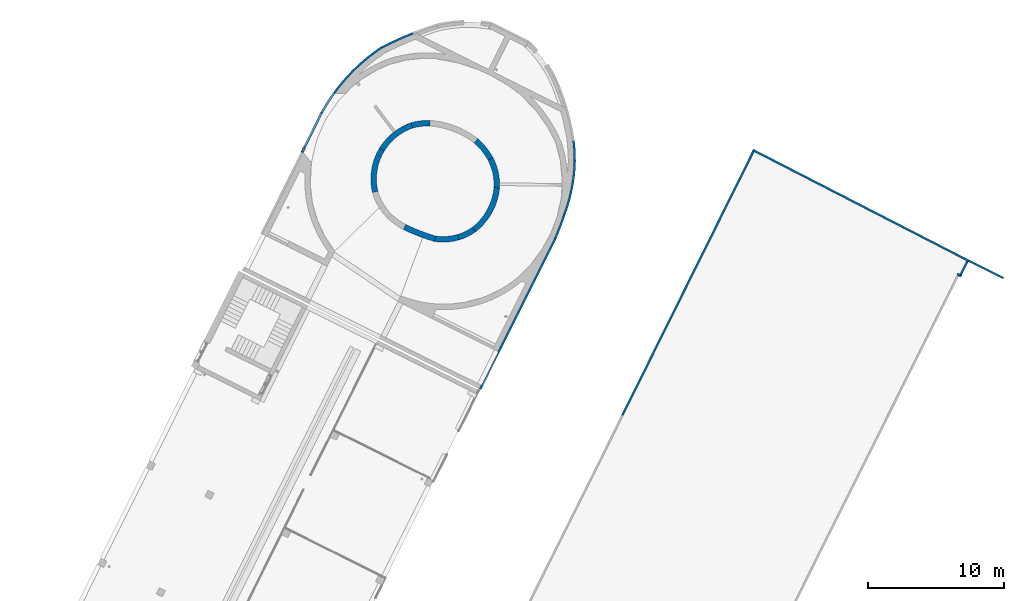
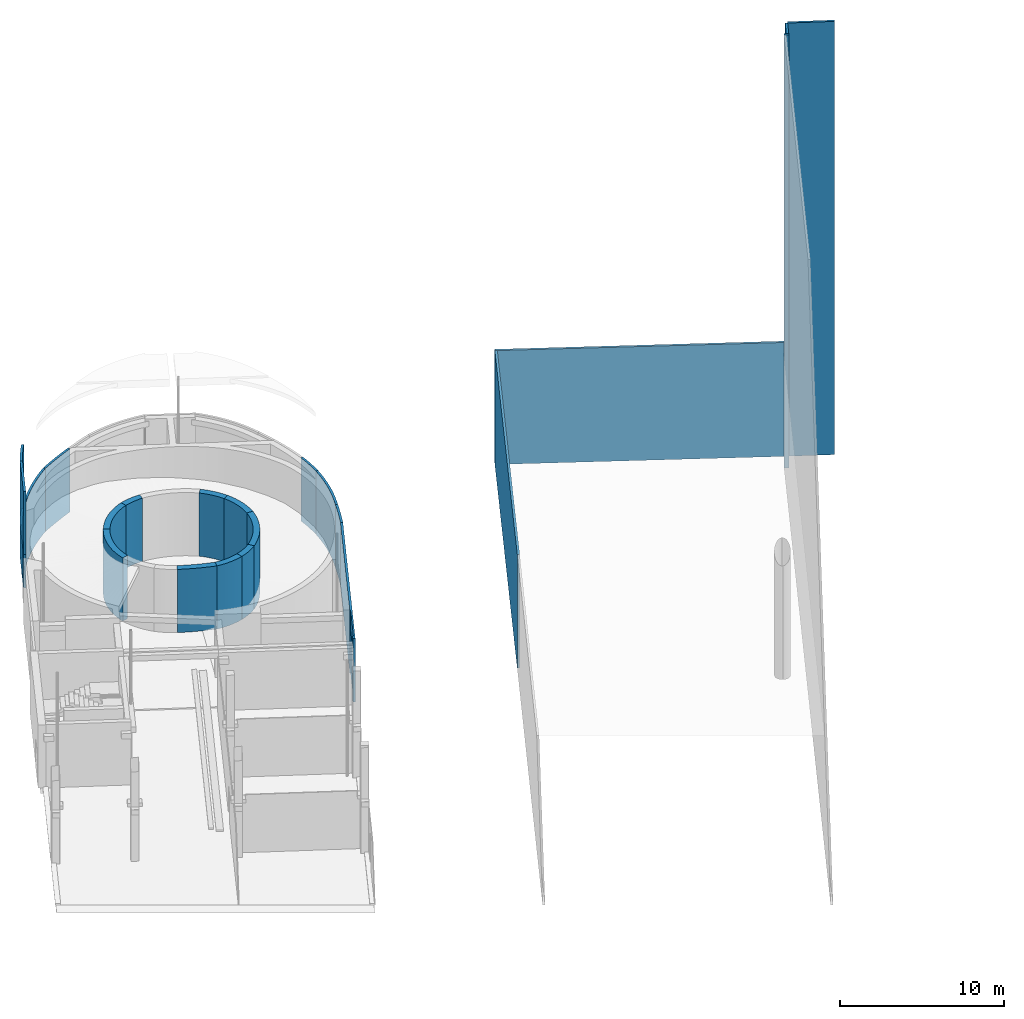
# One storey, part 19 of 91: 25 walls, 2 openings.
"""IFC2X3 building model written with IfcOpenShell, lengths in metres."""

from ifc_helpers import new_model, entity, si_unit, converted_unit, derived_unit, direction, frame, frame_2d, origin, place, context, subcontext, project, spatial, polyline, circle_curve, parameter, trimmed, segment, composite_curve, rectangle, outline, extrude, clip, bounded_halfspace, material, layer, layer_set, layer_usage, type_object, element, save


model = new_model("IFC2X3")

# Units and contexts
model_context = context("Model", 3, precision=1e-05, world=origin(), true_north=direction((0.894925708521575, 0.446215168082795)))
context_of_model = context(None, 3, precision=1e-05, world=origin(), true_north=direction((0.894925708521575, 0.446215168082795)))
body_context = subcontext(model_context, "Body", "Model", "MODEL_VIEW")
ifc_project = project(units=[si_unit("LENGTHUNIT", "METRE"), si_unit("AREAUNIT", "SQUARE_METRE"), si_unit("VOLUMEUNIT", "CUBIC_METRE"), converted_unit("PLANEANGLEUNIT", "DEGREE", entity("IfcRatioMeasure", 0.0174532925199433), si_unit("PLANEANGLEUNIT", "RADIAN"), dimensions=[0, 0, 0, 0, 0, 0, 0]), si_unit("MASSUNIT", "GRAM", prefix="KILO"), si_unit("TIMEUNIT", "SECOND"), si_unit("FREQUENCYUNIT", "HERTZ"), si_unit("THERMODYNAMICTEMPERATUREUNIT", "DEGREE_CELSIUS"), derived_unit("THERMALTRANSMITTANCEUNIT", [(si_unit("MASSUNIT", "GRAM", prefix="KILO"), 1), (si_unit("THERMODYNAMICTEMPERATUREUNIT", "KELVIN"), -1), (si_unit("TIMEUNIT", "SECOND"), -3)]), derived_unit("VOLUMETRICFLOWRATEUNIT", [(si_unit("LENGTHUNIT", "METRE"), 3), (si_unit("TIMEUNIT", "SECOND"), -1)]), si_unit("ELECTRICCURRENTUNIT", "AMPERE"), si_unit("ELECTRICVOLTAGEUNIT", "VOLT"), si_unit("POWERUNIT", "WATT"), si_unit("FORCEUNIT", "NEWTON", prefix="KILO"), si_unit("ILLUMINANCEUNIT", "LUX"), si_unit("LUMINOUSFLUXUNIT", "LUMEN"), si_unit("LUMINOUSINTENSITYUNIT", "CANDELA"), si_unit("PRESSUREUNIT", "PASCAL")], contexts=[model_context, context_of_model])

# Site, building, storey
site_placement = place(None, frame((218.228324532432, 584.720189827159, 0.0), z_axis=(0.0, 0.0, 1.0), x_axis=(0.446215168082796, 0.894925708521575, 0.0)))
site = spatial("IfcSite", under=ifc_project, at=site_placement, Name="Default", CompositionType="ELEMENT")
building_placement = place(site_placement, origin())
building = spatial("IfcBuilding", under=site, at=building_placement, CompositionType="ELEMENT")
storey_placement = place(building_placement, origin())
storey = spatial("IfcBuildingStorey", under=building, at=storey_placement, Name="0 - Piano Terra", CompositionType="ELEMENT", Elevation=0.0)

# Walls
ifc_material_1 = material(Name="Intonaco - Bianco")
ifc_layer_1 = layer(ifc_material_1, 0.01)
ifc_material_2 = material(Name="Default - Calcestruzzo")
ifc_layer_2 = layer(ifc_material_2, 0.4)
ifc_layer_set_1 = layer_set([ifc_layer_1, ifc_layer_2], Name="Muro di base:Setto CA intonacato int - 41 cm")
ifc_layer_usage_1 = layer_usage(ifc_layer_set_1, "AXIS2", "POSITIVE", -0.205)
wall_type_1 = type_object("IfcWallType", Name="Muro di base:Setto CA intonacato int - 41 cm", PredefinedType="STANDARD", material=ifc_layer_set_1)
wall_1_placement = place(storey_placement, frame((72.7535282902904, -7.76748426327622, 0.0), z_axis=(0.0, 0.0, 1.0), x_axis=(-0.432595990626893, -0.901587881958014, 0.0)))
element("IfcWallStandardCase", 1, at=wall_1_placement, inside=storey, type_object=wall_type_1, material=ifc_layer_usage_1, Name="Muro di base:Setto CA intonacato int - 41 cm", ObjectType="Muro di base:Setto CA intonacato int - 41 cm", context=body_context, shape_type="SweptSolid", body=[
    extrude(outline(composite_curve([segment(trimmed(circle_curve(frame_2d((-3.01054474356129, -3.21887026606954), x_axis=(1.0, 0.0)), 4.61232406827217), [parameter(359.999999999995)], [parameter(46.9153847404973)], True, "PARAMETER"), True, "CONTINUOUS"), segment(polyline([(0.140030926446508, 0.149720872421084), (-0.133743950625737, -0.15561304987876)]), True, "CONTINUOUS"), segment(trimmed(circle_curve(frame_2d((-3.01054474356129, -3.21887026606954), x_axis=(1.0, 0.0)), 4.20232406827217), [parameter(0.114022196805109)], [parameter(46.7979049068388)], True, "PARAMETER"), False, "CONTINUOUS"), segment(polyline([(1.19177100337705, -3.21050738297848), (1.60177932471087, -3.21887026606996)]), True, "CONTINUOUS")], self_intersect=False)), origin(), (0.0, 0.0, 1.0), 4.69),
])
ifc_layer_usage_2 = layer_usage(ifc_layer_set_1, "AXIS2", "POSITIVE", -0.205)
wall_2_placement = place(storey_placement, frame((74.4408967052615, -6.4093007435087, 0.0), z_axis=(0.0, 0.0, 1.0), x_axis=(0.401751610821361, -0.91574867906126, 0.0)))
element("IfcWallStandardCase", 2, at=wall_2_placement, inside=storey, type_object=wall_type_1, material=ifc_layer_usage_2, Name="Muro di base:Setto CA intonacato int - 41 cm", ObjectType="Muro di base:Setto CA intonacato int - 41 cm", context=body_context, shape_type="SweptSolid", body=[
    extrude(outline(composite_curve([segment(trimmed(circle_curve(frame_2d((-3.6131813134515, -2.09945934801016), x_axis=(1.0, 0.0)), 4.3838525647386), [parameter(4.07110999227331e-12)], [parameter(30.1589707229)], True, "PARAMETER"), True, "CONTINUOUS"), segment(polyline([(0.177250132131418, 0.102992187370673), (-0.17501766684, -0.106839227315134)]), True, "CONTINUOUS"), segment(trimmed(circle_curve(frame_2d((-3.6131813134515, -2.09945934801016), x_axis=(1.0, 0.0)), 3.9738525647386), [parameter(0.123917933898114)], [parameter(30.0948403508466)], True, "PARAMETER"), False, "CONTINUOUS"), segment(polyline([(0.360661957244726, -2.09086480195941), (0.770671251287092, -2.09945934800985)]), True, "CONTINUOUS")], self_intersect=False)), origin(), (0.0, 0.0, 1.0), 4.69),
])
ifc_layer_usage_3 = layer_usage(ifc_layer_set_1, "AXIS2", "POSITIVE", -0.205)
wall_3_placement = place(storey_placement, frame((75.1511296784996, -4.85328415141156, 0.0), z_axis=(0.0, 0.0, 1.0), x_axis=(0.791601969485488, -0.611037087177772, 0.0)))
element("IfcWallStandardCase", 3, at=wall_3_placement, inside=storey, type_object=wall_type_1, material=ifc_layer_usage_3, Name="Muro di base:Setto CA intonacato int - 41 cm", ObjectType="Muro di base:Setto CA intonacato int - 41 cm", context=body_context, shape_type="SweptSolid", body=[
    extrude(outline(composite_curve([segment(trimmed(circle_curve(frame_2d((-4.38089045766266, -1.89996316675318), x_axis=(1.0, 0.0)), 4.98015038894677), [parameter(2.75814113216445)], [parameter(23.4460581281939)], True, "PARAMETER"), True, "CONTINUOUS"), segment(polyline([(0.188074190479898, 0.0815665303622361), (-0.18352889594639, -0.0920830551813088)]), True, "CONTINUOUS"), segment(trimmed(circle_curve(frame_2d((-4.38089045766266, -1.89996316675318), x_axis=(1.0, 0.0)), 4.57015038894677), [parameter(2.81424736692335)], [parameter(23.3024253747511)], True, "PARAMETER"), False, "CONTINUOUS"), segment(polyline([(0.183748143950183, -1.67557730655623), (0.593490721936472, -1.66031806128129)]), True, "CONTINUOUS")], self_intersect=False)), origin(), (0.0, 0.0, 1.0), 4.69),
])
ifc_layer_usage_4 = layer_usage(ifc_layer_set_1, "AXIS2", "POSITIVE", -0.205)
wall_4_placement = place(storey_placement, frame((74.0607317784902, -0.146360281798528, 0.0), z_axis=(0.0, 0.0, 1.0), x_axis=(0.907919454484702, 0.419144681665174, 0.0)))
element("IfcWallStandardCase", 4, at=wall_4_placement, inside=storey, type_object=wall_type_1, material=ifc_layer_usage_4, Name="Muro di base:Setto CA intonacato int - 41 cm", ObjectType="Muro di base:Setto CA intonacato int - 41 cm", context=body_context, shape_type="SweptSolid", body=[
    extrude(outline(composite_curve([segment(trimmed(circle_curve(frame_2d((-4.22179150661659, -1.33406781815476), x_axis=(1.0, 0.0)), 4.63255694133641), [parameter(7.46030906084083e-11)], [parameter(17.5363103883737)], True, "PARAMETER"), True, "CONTINUOUS"), segment(polyline([(0.195472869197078, 0.0617685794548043), (-0.192000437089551, -0.0728100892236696)]), True, "CONTINUOUS"), segment(trimmed(circle_curve(frame_2d((-4.22179150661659, -1.33406781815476), x_axis=(1.0, 0.0)), 4.22255694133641), [parameter(0.135564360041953)], [parameter(17.3792540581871)], True, "PARAMETER"), False, "CONTINUOUS"), segment(polyline([(0.000753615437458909, -1.3240770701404), (0.410765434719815, -1.33406781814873)]), True, "CONTINUOUS")], self_intersect=False)), origin(), (0.0, 0.0, 1.0), 4.69),
])
ifc_layer_usage_5 = layer_usage(ifc_layer_set_1, "AXIS2", "POSITIVE", -0.205)
wall_5_placement = place(storey_placement, frame((71.4703263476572, 1.0328184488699, 0.0), z_axis=(0.0, 0.0, 1.0), x_axis=(0.700325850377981, 0.713823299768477, 0.0)))
element("IfcWallStandardCase", 5, at=wall_5_placement, inside=storey, type_object=wall_type_1, material=ifc_layer_usage_5, Name="Muro di base:Setto CA intonacato int - 41 cm", ObjectType="Muro di base:Setto CA intonacato int - 41 cm", context=body_context, shape_type="SweptSolid", body=[
    extrude(outline(composite_curve([segment(trimmed(circle_curve(frame_2d((-3.22612707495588, -2.68645145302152), x_axis=(1.0, 0.0)), 4.40320405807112), [parameter(359.999999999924)], [parameter(39.784730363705)], True, "PARAMETER"), True, "CONTINUOUS"), segment(polyline([(0.157533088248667, 0.131180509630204), (-0.156956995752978, -0.131872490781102)]), True, "CONTINUOUS"), segment(trimmed(circle_curve(frame_2d((-3.22612707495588, -2.68645145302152), x_axis=(1.0, 0.0)), 3.99320405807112), [parameter(0.165656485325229)], [parameter(39.7718111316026)], True, "PARAMETER"), False, "CONTINUOUS"), segment(polyline([(0.767060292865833, -2.67490611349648), (1.17707698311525, -2.68645145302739)]), True, "CONTINUOUS")], self_intersect=False)), origin(), (0.0, 0.0, 1.0), 4.69),
])
ifc_layer_usage_6 = layer_usage(ifc_layer_set_1, "AXIS2", "POSITIVE", -0.205)
wall_6_placement = place(storey_placement, frame((67.3758956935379, -5.39443917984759, 0.0), z_axis=(0.0, 0.0, 1.0), x_axis=(-0.999926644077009, -0.0121122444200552, 0.0)))
element("IfcWallStandardCase", 6, at=wall_6_placement, inside=storey, type_object=wall_type_1, material=ifc_layer_usage_6, Name="Muro di base:Setto CA intonacato int - 41 cm", ObjectType="Muro di base:Setto CA intonacato int - 41 cm", context=body_context, shape_type="SweptSolid", body=[
    extrude(outline(composite_curve([segment(trimmed(circle_curve(frame_2d((-14.5573128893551, -2.40385476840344), x_axis=(1.0, 0.0)), 14.9594527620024), [parameter(7.63333123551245e-13)], [parameter(9.37665779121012)], True, "PARAMETER"), True, "CONTINUOUS"), segment(polyline([(0.202260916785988, 0.0333994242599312), (-0.197289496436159, -0.0637043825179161)]), True, "CONTINUOUS"), segment(trimmed(circle_curve(frame_2d((-14.5573128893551, -2.40385476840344), x_axis=(1.0, 0.0)), 14.5494527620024), [parameter(0.0299347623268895)], [parameter(9.2557216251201)], True, "PARAMETER"), False, "CONTINUOUS"), segment(polyline([(-0.0078621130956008, -2.39625325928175), (0.402139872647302, -2.40385476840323)]), True, "CONTINUOUS")], self_intersect=False)), origin(), (0.0, 0.0, 1.0), 4.69),
])
ifc_layer_usage_7 = layer_usage(ifc_layer_set_1, "AXIS2", "POSITIVE", -0.205)
wall_7_placement = place(storey_placement, frame((68.2405251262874, -6.86210125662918, 0.0), z_axis=(0.0, 0.0, 1.0), x_axis=(-0.948364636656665, -0.31718214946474, 0.0)))
element("IfcWallStandardCase", 7, at=wall_7_placement, inside=storey, type_object=wall_type_1, material=ifc_layer_usage_7, Name="Muro di base:Setto CA intonacato int - 41 cm", ObjectType="Muro di base:Setto CA intonacato int - 41 cm", context=body_context, shape_type="SweptSolid", body=[
    extrude(outline(composite_curve([segment(trimmed(circle_curve(frame_2d((-3.90742253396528, -1.69614852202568), x_axis=(1.0, 0.0)), 4.4646796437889), [parameter(2.3103549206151e-11)], [parameter(23.4648800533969)], True, "PARAMETER"), True, "CONTINUOUS"), segment(polyline([(0.188047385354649, 0.0816283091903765), (-0.186482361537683, -0.0852384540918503)]), True, "CONTINUOUS"), segment(trimmed(circle_curve(frame_2d((-3.90742253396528, -1.69614852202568), x_axis=(1.0, 0.0)), 4.0546796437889), [parameter(0.419338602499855)], [parameter(23.4092786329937)], True, "PARAMETER"), False, "CONTINUOUS"), segment(polyline([(0.147148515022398, -1.66647323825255), (0.557257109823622, -1.69614852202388)]), True, "CONTINUOUS")], self_intersect=False)), origin(), (0.0, 0.0, 1.0), 4.69),
])
ifc_layer_usage_8 = layer_usage(ifc_layer_set_1, "AXIS2", "POSITIVE", -0.205)
wall_8_placement = place(storey_placement, frame((69.2546324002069, -7.63809080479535, 0.0), z_axis=(0.0, 0.0, 1.0), x_axis=(-0.730703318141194, -0.682695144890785, 0.0)))
element("IfcWallStandardCase", 8, at=wall_8_placement, inside=storey, type_object=wall_type_1, material=ifc_layer_usage_8, Name="Muro di base:Setto CA intonacato int - 41 cm", ObjectType="Muro di base:Setto CA intonacato int - 41 cm", context=body_context, shape_type="SweptSolid", body=[
    extrude(outline(composite_curve([segment(trimmed(circle_curve(frame_2d((-3.67227557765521, -1.26326947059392), x_axis=(1.0, 0.0)), 4.08848524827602), [parameter(359.999999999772)], [parameter(18.9833101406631)], True, "PARAMETER"), True, "CONTINUOUS"), segment(polyline([(0.193850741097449, 0.0666850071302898), (-0.191156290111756, -0.0745465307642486)]), True, "CONTINUOUS"), segment(trimmed(circle_curve(frame_2d((-3.67227557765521, -1.26326947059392), x_axis=(1.0, 0.0)), 3.67848524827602), [parameter(0.0610019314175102)], [parameter(18.8538671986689)], True, "PARAMETER"), False, "CONTINUOUS"), segment(polyline([(0.00620758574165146, -1.2593530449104), (0.416209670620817, -1.2632694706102)]), True, "CONTINUOUS")], self_intersect=False)), origin(), (0.0, 0.0, 1.0), 4.69),
])
ifc_layer_usage_9 = layer_usage(ifc_layer_set_1, "AXIS2", "POSITIVE", -0.205)
wall_9_placement = place(storey_placement, frame((68.4842258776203, 0.0781020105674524, 0.0)))
element("IfcWallStandardCase", 9, at=wall_9_placement, inside=storey, type_object=wall_type_1, material=ifc_layer_usage_9, Name="Muro di base:Setto CA intonacato int - 41 cm", ObjectType="Muro di base:Setto CA intonacato int - 41 cm", context=body_context, shape_type="SweptSolid", body=[
    extrude(outline(composite_curve([segment(polyline([(-0.131399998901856, 0.157350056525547), (0.139254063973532, -0.150808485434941)]), True, "CONTINUOUS"), segment(trimmed(circle_curve(frame_2d((2.66661045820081, -3.19323675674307), x_axis=(1.0, 0.0)), 3.95523705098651), [parameter(85.5962125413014)], [parameter(129.716537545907)], True, "PARAMETER"), False, "CONTINUOUS"), segment(polyline([(2.97031308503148, 0.750323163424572), (3.00278525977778, 1.15903632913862)]), True, "CONTINUOUS"), segment(trimmed(circle_curve(frame_2d((2.66661045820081, -3.19323675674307), x_axis=(1.0, 0.0)), 4.36523705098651), [parameter(85.5831751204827)], [parameter(129.864606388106)], True, "PARAMETER"), True, "CONTINUOUS")], self_intersect=False)), origin(), (0.0, 0.0, 1.0), 4.69),
])
ifc_material_3 = material(Name="Alluminio")
ifc_layer_3 = layer(ifc_material_3, 0.15)
ifc_layer_set_2 = layer_set([ifc_layer_3], Name="Muro di base:Rivestimento 15 cm")
ifc_layer_usage_10 = layer_usage(ifc_layer_set_2, "AXIS2", "POSITIVE", -0.075)
wall_type_2 = type_object("IfcWallType", Name="Muro di base:Rivestimento 15 cm", PredefinedType="STANDARD", material=ifc_layer_set_2)
wall_10_placement = place(storey_placement, frame((78.1588103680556, 4.4167493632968, 0.0)))
element("IfcWallStandardCase", 10, at=wall_10_placement, inside=storey, type_object=wall_type_2, material=ifc_layer_usage_10, Name="Muro di base:Rivestimento 15 cm", ObjectType="Muro di base:Rivestimento 15 cm", context=body_context, shape_type="SweptSolid", body=[
    extrude(outline(composite_curve([segment(trimmed(circle_curve(frame_2d((-16.3663447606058, -22.1933416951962), x_axis=(1.0, 0.0)), 27.6503813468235), [parameter(48.2279813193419)], [parameter(53.5933068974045)], True, "PARAMETER"), True, "CONTINUOUS"), segment(polyline([(0.0445134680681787, 0.0603618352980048), (-0.037406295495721, -0.0656047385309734)]), True, "CONTINUOUS"), segment(trimmed(circle_curve(frame_2d((-16.3663447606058, -22.1933416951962), x_axis=(1.0, 0.0)), 27.5003813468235), [parameter(48.2279813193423)], [parameter(53.5749063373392)], True, "PARAMETER"), False, "CONTINUOUS"), segment(polyline([(1.95353823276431, -1.68351816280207), (2.0534634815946, -1.57164794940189)]), True, "CONTINUOUS")], self_intersect=False)), origin(), (0.0, 0.0, 1.0), 4.69),
])
ifc_layer_usage_11 = layer_usage(ifc_layer_set_2, "AXIS2", "POSITIVE", -0.075)
wall_11_placement = place(storey_placement, frame((78.3492203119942, -11.2758851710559, 0.0)))
element("IfcWallStandardCase", 11, at=wall_11_placement, inside=storey, type_object=wall_type_2, material=ifc_layer_usage_11, Name="Muro di base:Rivestimento 15 cm", ObjectType="Muro di base:Rivestimento 15 cm", context=body_context, shape_type="SweptSolid", body=[
    extrude(outline(composite_curve([segment(trimmed(circle_curve(frame_2d((-6.78022468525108, 10.3228070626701), x_axis=(1.0, 0.0)), 12.4253762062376), [parameter(295.405253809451)], [parameter(303.297703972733)], True, "PARAMETER"), True, "CONTINUOUS"), segment(polyline([(0.0411741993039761, -0.0626872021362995), (-0.0427763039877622, 0.0616350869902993)]), True, "CONTINUOUS"), segment(trimmed(circle_curve(frame_2d((-6.78022468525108, 10.3228070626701), x_axis=(1.0, 0.0)), 12.2753762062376), [parameter(295.414527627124)], [parameter(303.288757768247)], True, "PARAMETER"), False, "CONTINUOUS"), segment(polyline([(-1.51207310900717, -0.764638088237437), (-1.44951508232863, -0.900985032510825)]), True, "CONTINUOUS")], self_intersect=False)), origin(), (0.0, 0.0, 1.0), 4.69),
])
ifc_layer_usage_12 = layer_usage(ifc_layer_set_2, "AXIS2", "POSITIVE", -0.075)
wall_12_placement = place(storey_placement, frame((76.8693345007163, -12.1082945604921, 0.0)))
element("IfcWallStandardCase", 12, at=wall_12_placement, inside=storey, type_object=wall_type_2, material=ifc_layer_usage_12, Name="Muro di base:Rivestimento 15 cm", ObjectType="Muro di base:Rivestimento 15 cm", context=body_context, shape_type="SweptSolid", body=[
    extrude(outline(composite_curve([segment(trimmed(circle_curve(frame_2d((-4.92036196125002, 11.1099403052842), x_axis=(1.0, 0.0)), 12.2257504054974), [parameter(276.02698137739)], [parameter(293.887558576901)], True, "PARAMETER"), True, "CONTINUOUS"), segment(polyline([(0.0303707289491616, -0.0685756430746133), (-0.032187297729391, 0.0677713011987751)]), True, "CONTINUOUS"), segment(trimmed(circle_curve(frame_2d((-4.92036196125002, 11.1099403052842), x_axis=(1.0, 0.0)), 12.0757504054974), [parameter(276.0137038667)], [parameter(293.878132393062)], True, "PARAMETER"), False, "CONTINUOUS"), segment(polyline([(-3.6552299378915, -0.899355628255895), (-3.63669746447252, -1.04823301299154)]), True, "CONTINUOUS")], self_intersect=False)), origin(), (0.0, 0.0, 1.0), 4.69),
])
ifc_layer_usage_13 = layer_usage(ifc_layer_set_2, "AXIS2", "POSITIVE", -0.075)
wall_13_placement = place(storey_placement, frame((73.2247688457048, -13.0818881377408, 0.0)))
element("IfcWallStandardCase", 13, at=wall_13_placement, inside=storey, type_object=wall_type_2, material=ifc_layer_usage_13, Name="Muro di base:Rivestimento 15 cm", ObjectType="Muro di base:Rivestimento 15 cm", context=body_context, shape_type="SweptSolid", body=[
    extrude(outline(composite_curve([segment(trimmed(circle_curve(frame_2d((-3.32195223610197, 23.1253168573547), x_axis=(1.0, 0.0)), 23.4376977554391), [parameter(273.478873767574)], [parameter(278.167711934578)], True, "PARAMETER"), True, "CONTINUOUS"), segment(polyline([(0.00786819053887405, -0.0746394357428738), (-0.0106642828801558, 0.074237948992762)]), True, "CONTINUOUS"), segment(trimmed(circle_curve(frame_2d((-3.32195223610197, 23.1253168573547), x_axis=(1.0, 0.0)), 23.2876977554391), [parameter(273.490063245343)], [parameter(278.17461736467)], True, "PARAMETER"), False, "CONTINUOUS"), segment(polyline([(-1.90430355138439, -0.119190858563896), (-1.89974099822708, -0.269190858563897)]), True, "CONTINUOUS")], self_intersect=False)), origin(), (0.0, 0.0, 1.0), 4.69),
])

# Wall, openings
ifc_layer_usage_14 = layer_usage(ifc_layer_set_2, "AXIS2", "NEGATIVE", 0.075)
wall_14_placement = place(storey_placement, frame((71.3250278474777, -13.2760789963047, 0.0), z_axis=(0.0, 0.0, 1.0), x_axis=(-1.0, 0.0, 0.0)))
wall_14 = element("IfcWallStandardCase", 14, at=wall_14_placement, inside=storey, type_object=wall_type_2, material=ifc_layer_usage_14, Name="Muro di base:Rivestimento 15 cm", ObjectType="Muro di base:Rivestimento 15 cm", context=body_context, shape_type="Clipping", body=[
    clip(extrude(outline(polyline([(0.0, 0.0750000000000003), (0.00456255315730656, -0.0750000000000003), (9.28909086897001, -0.0750000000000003), (9.29909086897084, -0.0750000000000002), (9.29909086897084, -0.0250000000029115), (12.0490908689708, -0.0250000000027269), (12.0490908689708, -0.0749999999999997), (12.0590908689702, -0.0749999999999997), (12.3590908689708, -0.0750000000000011), (12.3590908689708, 0.0749999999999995), (0.0, 0.0750000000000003)])), origin(), (0.0, 0.0, 1.0), 4.69), bounded_halfspace(frame((12.0490908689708, -0.0250000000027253, 0.0), z_axis=(0.0, 1.0, 0.0), x_axis=(0.0, 0.0, 1.0)), True, frame((12.0490908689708, -0.0250000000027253, 0.0), z_axis=(0.0, 1.0, 0.0), x_axis=(0.0, 0.0, 1.0)), polyline([(0.0, 0.0), (0.0, -2.75), (0.005, -2.75000000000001), (0.005, 0.0), (0.0, 0.0)]))),
])
opening_1_placement = place(wall_14_placement, frame((12.0490908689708, 0.0750000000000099, 0.005)))
element("IfcOpeningElement", 15, at=opening_1_placement, cuts=wall_14, Name="Muro di base:Rivestimento 15 cm", ObjectType="Opening", context=body_context, shape_type="SweptSolid", body=[
    extrude(rectangle(XDim=0.0849999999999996, YDim=2.75000000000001, at=frame_2d((0.0, 4.32986979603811e-15), x_axis=(1.0, 0.0))), frame((-1.37500000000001, -0.150000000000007, 0.0424999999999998), z_axis=(0.0, 1.0, 0.0), x_axis=(0.0, 0.0, -1.0)), (0.0, 0.0, 1.0), 0.150000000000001),
])
opening_2_placement = place(wall_14_placement, frame((12.0490908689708, 1.44900000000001, 0.0900000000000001)))
element("IfcOpeningElement", 16, at=opening_2_placement, cuts=wall_14, Name="Muro di base:Rivestimento 15 cm", ObjectType="Opening", context=body_context, shape_type="SweptSolid", body=[
    extrude(rectangle(XDim=3.13, YDim=2.75, at=frame_2d((0.0, 0.0), x_axis=(0.0, 1.0))), frame((-1.37500000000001, -3.04800000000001, 1.565), z_axis=(0.0, 1.0, 0.0), x_axis=(1.0, 0.0, 0.0)), (0.0, 0.0, 1.0), 3.048),
])

# Walls
ifc_layer_usage_15 = layer_usage(ifc_layer_set_2, "AXIS2", "POSITIVE", -0.075)
wall_15_placement = place(storey_placement, frame((71.9312887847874, 6.20020690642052, 2.47), z_axis=(0.0, 0.0, 1.0), x_axis=(-0.999998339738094, -0.00182222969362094, 0.0)))
element("IfcWallStandardCase", 17, at=wall_15_placement, inside=storey, type_object=wall_type_2, material=ifc_layer_usage_15, Name="Muro di base:Rivestimento 15 cm", ObjectType="Muro di base:Rivestimento 15 cm", context=body_context, shape_type="SweptSolid", body=[
    extrude(outline(polyline([(2.80317753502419, -0.0750000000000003), (2.80317753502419, 0.0749999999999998), (0.00317753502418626, 0.0749999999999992), (0.0, -0.0750000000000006), (2.80317753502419, -0.0750000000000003)])), origin(), (0.0, 0.0, 1.0), 2.5),
])
ifc_layer_usage_16 = layer_usage(ifc_layer_set_2, "AXIS2", "POSITIVE", -0.075)
wall_16_placement = place(storey_placement, frame((73.6854885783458, 6.01529600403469, 2.47)))
element("IfcWallStandardCase", 18, at=wall_16_placement, inside=storey, type_object=wall_type_2, material=ifc_layer_usage_16, Name="Muro di base:Rivestimento 15 cm", ObjectType="Muro di base:Rivestimento 15 cm", context=body_context, shape_type="SweptSolid", body=[
    extrude(outline(composite_curve([segment(trimmed(circle_curve(frame_2d((-2.31178993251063, -13.523053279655), x_axis=(1.0, 0.0)), 13.6442325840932), [parameter(80.2989621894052)], [parameter(87.6706577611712)], True, "PARAMETER"), False, "CONTINUOUS"), segment(polyline([(-0.0126380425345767, -0.0739275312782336), (0.01263804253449, 0.0739275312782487)]), True, "CONTINUOUS"), segment(trimmed(circle_curve(frame_2d((-2.31178993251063, -13.523053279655), x_axis=(1.0, 0.0)), 13.7942325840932), [parameter(80.2989621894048)], [parameter(87.6839283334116)], True, "PARAMETER"), True, "CONTINUOUS"), segment(polyline([(-1.75433646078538, 0.259910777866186), (-1.75724065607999, 0.109905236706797)]), True, "CONTINUOUS")], self_intersect=False)), origin(), (0.0, 0.0, 1.0), 2.43294385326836),
])
ifc_layer_usage_17 = layer_usage(ifc_layer_set_2, "AXIS2", "POSITIVE", -0.075)
wall_17_placement = place(storey_placement, frame((78.16619078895, 4.4119488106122, 0.0)))
element("IfcWallStandardCase", 19, at=wall_17_placement, inside=storey, type_object=wall_type_2, material=ifc_layer_usage_17, Name="Muro di base:Rivestimento 15 cm", ObjectType="Muro di base:Rivestimento 15 cm", context=body_context, shape_type="SweptSolid", body=[
    extrude(outline(composite_curve([segment(trimmed(circle_curve(frame_2d((-6.79249214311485, -11.9197060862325), x_axis=(1.0, 0.0)), 13.6442325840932), [parameter(60.3601593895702)], [parameter(80.2989621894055)], True, "PARAMETER"), False, "CONTINUOUS"), segment(polyline([(-0.0447867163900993, -0.0608041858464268), (0.0371330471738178, 0.0651623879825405)]), True, "CONTINUOUS"), segment(trimmed(circle_curve(frame_2d((-6.79249214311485, -11.9197060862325), x_axis=(1.0, 0.0)), 13.7942325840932), [parameter(60.3231742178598)], [parameter(80.2989621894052)], True, "PARAMETER"), True, "CONTINUOUS"), segment(polyline([(-4.46806416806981, 1.67727472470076), (-4.49334025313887, 1.52941966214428)]), True, "CONTINUOUS")], self_intersect=False)), origin(), (0.0, 0.0, 1.0), 4.69),
])
ifc_layer_usage_18 = layer_usage(ifc_layer_set_2, "AXIS2", "NEGATIVE", 0.075)
wall_18_placement = place(storey_placement, frame((61.9184683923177, -23.4717946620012, 0.0), z_axis=(0.0, 0.0, 1.0), x_axis=(0.99999828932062, 0.00184969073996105, 0.0)))
element("IfcWallStandardCase", 20, at=wall_18_placement, inside=storey, type_object=wall_type_2, material=ifc_layer_usage_18, Name="Muro di base:Rivestimento 15 cm", ObjectType="Muro di base:Rivestimento 15 cm", context=body_context, shape_type="SweptSolid", body=[
    extrude(outline(polyline([(21.6310712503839, -0.0749999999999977), (21.6331357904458, 0.0749999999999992), (0.0, 0.0750000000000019), (0.0, -0.0749999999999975), (21.6310712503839, -0.0749999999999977)])), origin(), (0.0, 0.0, 1.0), 8.45),
])
ifc_layer_usage_19 = layer_usage(ifc_layer_set_2, "AXIS2", "NEGATIVE", 0.075)
wall_19_placement = place(storey_placement, frame((83.6264477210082, -23.3556092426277, 0.0), z_axis=(0.0, 0.0, 1.0), x_axis=(-0.0119127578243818, -0.999929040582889, 0.0)))
element("IfcWallStandardCase", 21, at=wall_19_placement, inside=storey, type_object=wall_type_2, material=ifc_layer_usage_19, Name="Muro di base:Rivestimento 15 cm", ObjectType="Muro di base:Rivestimento 15 cm", context=body_context, shape_type="SweptSolid", body=[
    extrude(outline(polyline([(17.822790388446, -0.075), (17.8227686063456, -0.0731870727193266), (17.8209881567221, 0.074999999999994), (0.0, 0.0749999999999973), (0.00206454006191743, -0.0750000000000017), (0.152078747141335, -0.0749999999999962), (17.6727795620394, -0.0749999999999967), (17.822790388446, -0.075)])), origin(), (0.0, 0.0, 1.0), 8.45),
])
ifc_layer_usage_20 = layer_usage(ifc_layer_set_2, "AXIS2", "POSITIVE", -0.075)
wall_20_placement = place(storey_placement, frame((73.6854885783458, 6.01529600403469, 4.90294385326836)))
element("IfcWallStandardCase", 22, at=wall_20_placement, inside=storey, type_object=wall_type_2, material=ifc_layer_usage_20, Name="Muro di base:Rivestimento 15 cm", ObjectType="Muro di base:Rivestimento 15 cm", context=body_context, shape_type="SweptSolid", body=[
    extrude(outline(composite_curve([segment(trimmed(circle_curve(frame_2d((-2.31178993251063, -13.523053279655), x_axis=(1.0, 0.0)), 13.6442325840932), [parameter(80.2989621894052)], [parameter(87.6706577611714)], True, "PARAMETER"), False, "CONTINUOUS"), segment(polyline([(-0.0126380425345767, -0.0739275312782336), (0.01263804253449, 0.0739275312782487)]), True, "CONTINUOUS"), segment(trimmed(circle_curve(frame_2d((-2.31178993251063, -13.523053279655), x_axis=(1.0, 0.0)), 13.7942325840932), [parameter(80.2989621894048)], [parameter(87.6839283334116)], True, "PARAMETER"), True, "CONTINUOUS"), segment(polyline([(-1.75433646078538, 0.259910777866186), (-1.75724065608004, 0.109905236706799)]), True, "CONTINUOUS")], self_intersect=False)), origin(), (0.0, 0.0, 1.0), 4.73705614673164),
])
ifc_layer_usage_21 = layer_usage(ifc_layer_set_2, "AXIS2", "POSITIVE", -0.075)
wall_21_placement = place(storey_placement, frame((71.9312887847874, 6.20020690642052, 4.97), z_axis=(0.0, 0.0, 1.0), x_axis=(-0.999998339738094, -0.00182222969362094, 0.0)))
element("IfcWallStandardCase", 23, at=wall_21_placement, inside=storey, type_object=wall_type_2, material=ifc_layer_usage_21, Name="Muro di base:Rivestimento 15 cm", ObjectType="Muro di base:Rivestimento 15 cm", context=body_context, shape_type="SweptSolid", body=[
    extrude(outline(polyline([(3.21718381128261, -0.0750000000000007), (3.2171838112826, 0.0749999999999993), (2.80317753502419, 0.0749999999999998), (0.00317753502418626, 0.0749999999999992), (0.0, -0.0750000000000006), (2.80317753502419, -0.0750000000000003), (3.21718381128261, -0.0750000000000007)])), origin(), (0.0, 0.0, 1.0), 4.67),
])
ifc_layer_usage_22 = layer_usage(ifc_layer_set_2, "AXIS2", "POSITIVE", -0.075)
wall_22_placement = place(storey_placement, frame((69.1281159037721, 6.19509887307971, 2.47), z_axis=(0.0, 0.0, 1.0), x_axis=(-0.999998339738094, -0.00182222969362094, 0.0)))
element("IfcWallStandardCase", 24, at=wall_22_placement, inside=storey, type_object=wall_type_2, material=ifc_layer_usage_22, Name="Muro di base:Rivestimento 15 cm", ObjectType="Muro di base:Rivestimento 15 cm", context=body_context, shape_type="SweptSolid", body=[
    extrude(rectangle(XDim=0.414006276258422, YDim=0.149999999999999, at=frame_2d((0.207003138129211, -2.42861286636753e-16), x_axis=(-1.0, 0.0))), origin(), (0.0, 0.0, 1.0), 2.5),
])
ifc_material_4 = material(Name="Default - Finestre")
ifc_layer_4 = layer(ifc_material_4, 0.15)
ifc_layer_set_3 = layer_set([ifc_layer_4], Name="Muro di base:Rivestimento pannelli 5 cm")
ifc_layer_usage_23 = layer_usage(ifc_layer_set_3, "AXIS2", "NEGATIVE", 0.075)
wall_type_3 = type_object("IfcWallType", Name="Muro di base:Rivestimento pannelli 5 cm", PredefinedType="STANDARD", material=ifc_layer_set_3)
wall_23_placement = place(storey_placement, frame((82.1637900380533, -40.8766711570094, 0.0), z_axis=(0.0, 0.0, 1.0), x_axis=(0.000101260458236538, -0.99999999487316, 0.0)))
element("IfcWallStandardCase", 25, at=wall_23_placement, inside=storey, type_object=wall_type_3, material=ifc_layer_usage_23, Name="Muro di base:Rivestimento pannelli 5 cm", ObjectType="Muro di base:Rivestimento pannelli 5 cm", context=body_context, shape_type="SweptSolid", body=[
    extrude(rectangle(XDim=0.299689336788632, YDim=0.15, at=frame_2d((0.149844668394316, 1.31838984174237e-15), x_axis=(-1.0, 0.0))), origin(), (0.0, 0.0, 1.0), 32.15),
])
ifc_layer_usage_24 = layer_usage(ifc_layer_set_3, "AXIS2", "NEGATIVE", 0.075)
wall_24_placement = place(storey_placement, frame((82.2388127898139, -41.1013528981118, 0.0), z_axis=(0.0, 0.0, 1.0), x_axis=(0.99999999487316, 0.000101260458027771, 0.0)))
element("IfcWallStandardCase", 26, at=wall_24_placement, inside=storey, type_object=wall_type_3, material=ifc_layer_usage_24, Name="Muro di base:Rivestimento pannelli 5 cm", ObjectType="Muro di base:Rivestimento pannelli 5 cm", context=body_context, shape_type="SweptSolid", body=[
    extrude(outline(polyline([(1.10031407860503, -0.0750000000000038), (1.102116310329, 0.0750000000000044), (0.0, 0.0750000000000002), (0.0, -0.0750000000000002), (1.10031407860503, -0.0750000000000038)])), origin(), (0.0, 0.0, 1.0), 32.15),
])
ifc_layer_usage_25 = layer_usage(ifc_layer_set_3, "AXIS2", "NEGATIVE", 0.075)
wall_25_placement = place(storey_placement, frame((83.415947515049, -41.1762337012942, 0.0), z_axis=(0.0, 0.0, 1.0), x_axis=(0.000101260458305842, -0.99999999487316, 0.0)))
element("IfcWallStandardCase", 27, at=wall_25_placement, inside=storey, type_object=wall_type_3, material=ifc_layer_usage_25, Name="Muro di base:Rivestimento pannelli 5 cm", ObjectType="Muro di base:Rivestimento pannelli 5 cm", context=body_context, shape_type="SweptSolid", body=[
    extrude(rectangle(XDim=2.85000000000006, YDim=0.15, at=frame_2d((1.42500000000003, -3.46944695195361e-15), x_axis=(-1.0, 0.0))), origin(), (0.0, 0.0, 1.0), 32.15),
])

save(model, "model.ifc")
